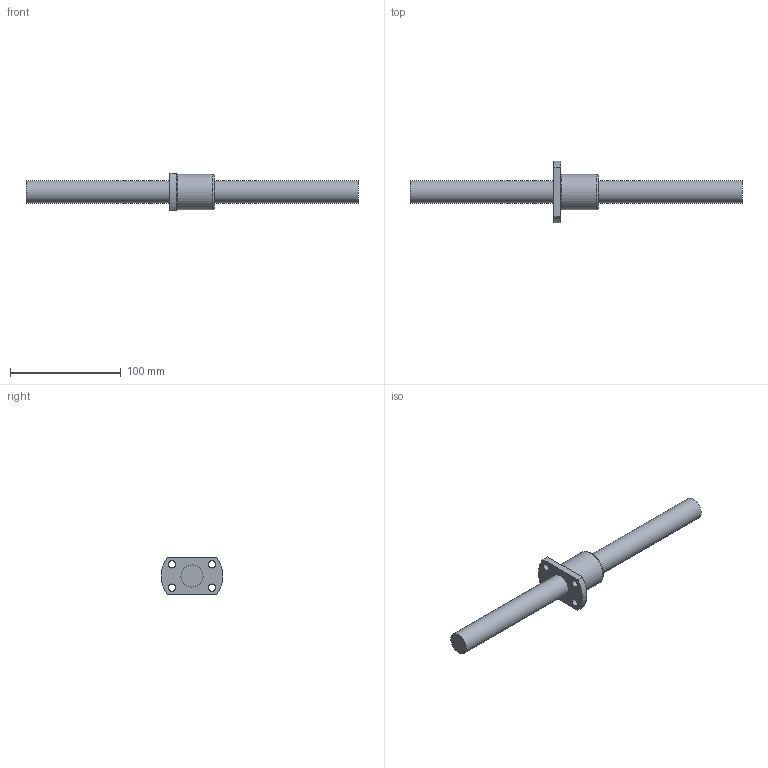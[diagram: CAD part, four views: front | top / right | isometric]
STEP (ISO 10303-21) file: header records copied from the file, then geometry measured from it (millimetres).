
FILE_DESCRIPTION((''),'2;1');
FILE_NAME('D:\製品 (図面)\カタログ用3D\ネジ関連\STEP形式\TMK\TMK20.stp','2010-06-02T15:23:50',('Tsuchiya'),(''),'Autodesk Inventor 10','Autodesk Inventor 10','');
FILE_SCHEMA(('AUTOMOTIVE_DESIGN { 1 0 10303 214 1 1 1 1 }'));
Length unit declared in the file: millimetre
Products named in the file (3): TMK20; TMK201; TMK202
Assembly tree (2 placements, depth 2):
  TMK20
    TMK201
    TMK202
Bounding box: 300 x 56 x 34 mm (x, y, z)
Volume: 118839.6 mm3; surface area: 29448.9 mm2
Topology: 2 solids, 2 shells, 18 faces, 41 edges, 28 vertices
Faces by surface type: plane 7, cylinder 5, bspline 5, torus 1
Full cylindrical faces by diameter (mm): 20 x2, 32 x1
Entity records: 628 total; most frequent: CARTESIAN_POINT 187, DIRECTION 84, ORIENTED_EDGE 56, AXIS2_PLACEMENT_3D 38, EDGE_LOOP 38, EDGE_CURVE 28, VERTEX_POINT 24, CIRCLE 20
